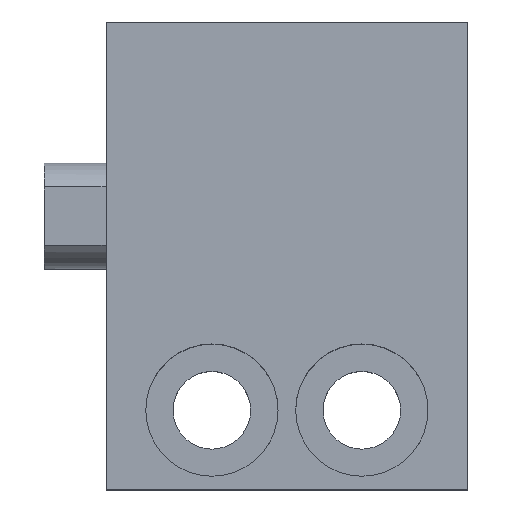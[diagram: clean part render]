
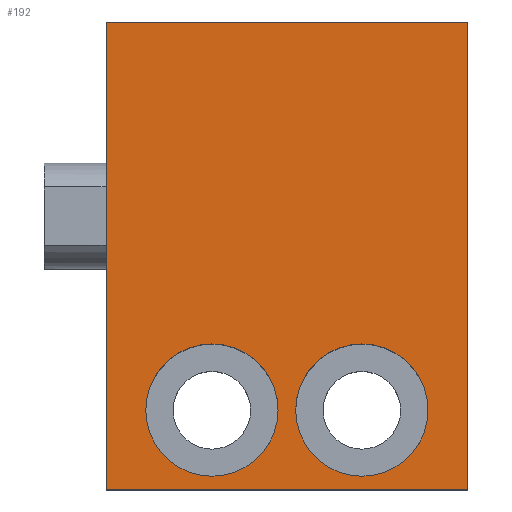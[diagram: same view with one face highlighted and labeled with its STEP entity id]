
A CAD part, top view. The second image highlights one B-rep face of the part: STEP entity #192.
In plain terms, the highlighted planar face has unit normal (0, 0, 1).
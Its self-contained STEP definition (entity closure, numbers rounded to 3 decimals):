
#11 = FACE_BOUND ( 'NONE', #609, .T. ) ;
#15 = VERTEX_POINT ( 'NONE', #2192 ) ;
#27 = DIRECTION ( 'NONE',  ( 0., 0., 1. ) ) ;
#32 = VECTOR ( 'NONE', #420, 1000. ) ;
#43 = EDGE_LOOP ( 'NONE', ( #1463, #1530 ) ) ;
#108 = ORIENTED_EDGE ( 'NONE', *, *, #1874, .F. ) ;
#185 = EDGE_CURVE ( 'NONE', #2368, #2117, #237, .T. ) ;
#188 = CARTESIAN_POINT ( 'NONE',  ( 20.5, 11., 8.5 ) ) ;
#192 = ADVANCED_FACE ( 'NONE', ( #2183, #11, #1927 ), #208, .T. ) ;
#208 = PLANE ( 'NONE',  #949 ) ;
#213 = EDGE_LOOP ( 'NONE', ( #108, #1221, #508, #3034 ) ) ;
#225 = DIRECTION ( 'NONE',  ( 1., 0., 0. ) ) ;
#237 = LINE ( 'NONE', #699, #1549 ) ;
#289 = ORIENTED_EDGE ( 'NONE', *, *, #799, .F. ) ;
#362 = CARTESIAN_POINT ( 'NONE',  ( 20.5, -15.5, 8.5 ) ) ;
#420 = DIRECTION ( 'NONE',  ( 0., 1., 0. ) ) ;
#423 = CARTESIAN_POINT ( 'NONE',  ( 10.75, -11., 8.5 ) ) ;
#468 = CARTESIAN_POINT ( 'NONE',  ( 6., -11., 8.5 ) ) ;
#473 = DIRECTION ( 'NONE',  ( 0., 0., 1. ) ) ;
#508 = ORIENTED_EDGE ( 'NONE', *, *, #185, .T. ) ;
#538 = CIRCLE ( 'NONE', #886, 3.75 ) ;
#543 = EDGE_CURVE ( 'NONE', #2117, #2497, #1661, .T. ) ;
#609 = EDGE_LOOP ( 'NONE', ( #289, #855 ) ) ;
#686 = DIRECTION ( 'NONE',  ( 0., 0., 1. ) ) ;
#699 = CARTESIAN_POINT ( 'NONE',  ( 20.5, -15.5, 8.5 ) ) ;
#799 = EDGE_CURVE ( 'NONE', #2959, #1371, #2664, .T. ) ;
#855 = ORIENTED_EDGE ( 'NONE', *, *, #2319, .F. ) ;
#886 = AXIS2_PLACEMENT_3D ( 'NONE', #1925, #473, #2898 ) ;
#944 = CIRCLE ( 'NONE', #2810, 3.75 ) ;
#949 = AXIS2_PLACEMENT_3D ( 'NONE', #2851, #992, #1947 ) ;
#992 = DIRECTION ( 'NONE',  ( 0., 0., 1. ) ) ;
#1058 = AXIS2_PLACEMENT_3D ( 'NONE', #2184, #27, #2969 ) ;
#1210 = DIRECTION ( 'NONE',  ( 0., 1., 0. ) ) ;
#1221 = ORIENTED_EDGE ( 'NONE', *, *, #1995, .F. ) ;
#1254 = VECTOR ( 'NONE', #2157, 1000. ) ;
#1330 = CARTESIAN_POINT ( 'NONE',  ( 20.5, -15.5, 8.5 ) ) ;
#1371 = VERTEX_POINT ( 'NONE', #423 ) ;
#1403 = CARTESIAN_POINT ( 'NONE',  ( 18.25, -11., 8.5 ) ) ;
#1463 = ORIENTED_EDGE ( 'NONE', *, *, #2546, .F. ) ;
#1485 = VECTOR ( 'NONE', #1809, 1000. ) ;
#1530 = ORIENTED_EDGE ( 'NONE', *, *, #3112, .F. ) ;
#1549 = VECTOR ( 'NONE', #1210, 1000. ) ;
#1631 = VERTEX_POINT ( 'NONE', #2005 ) ;
#1661 = LINE ( 'NONE', #2389, #1254 ) ;
#1809 = DIRECTION ( 'NONE',  ( -1., 0., 0. ) ) ;
#1874 = EDGE_CURVE ( 'NONE', #2380, #2497, #2870, .T. ) ;
#1921 = DIRECTION ( 'NONE',  ( 0., 0., 1. ) ) ;
#1925 = CARTESIAN_POINT ( 'NONE',  ( 14.5, -11., 8.5 ) ) ;
#1927 = FACE_BOUND ( 'NONE', #43, .T. ) ;
#1947 = DIRECTION ( 'NONE',  ( 0., 1., 0. ) ) ;
#1995 = EDGE_CURVE ( 'NONE', #2368, #2380, #2252, .T. ) ;
#2005 = CARTESIAN_POINT ( 'NONE',  ( 2.25, -11., 8.5 ) ) ;
#2117 = VERTEX_POINT ( 'NONE', #188 ) ;
#2157 = DIRECTION ( 'NONE',  ( -1., 0., 0. ) ) ;
#2183 = FACE_OUTER_BOUND ( 'NONE', #213, .T. ) ;
#2184 = CARTESIAN_POINT ( 'NONE',  ( 14.5, -11., 8.5 ) ) ;
#2192 = CARTESIAN_POINT ( 'NONE',  ( 9.75, -11., 8.5 ) ) ;
#2252 = LINE ( 'NONE', #362, #1485 ) ;
#2319 = EDGE_CURVE ( 'NONE', #1371, #2959, #538, .T. ) ;
#2368 = VERTEX_POINT ( 'NONE', #1330 ) ;
#2380 = VERTEX_POINT ( 'NONE', #2964 ) ;
#2389 = CARTESIAN_POINT ( 'NONE',  ( 20.5, 11., 8.5 ) ) ;
#2497 = VERTEX_POINT ( 'NONE', #2891 ) ;
#2546 = EDGE_CURVE ( 'NONE', #15, #1631, #3040, .T. ) ;
#2566 = DIRECTION ( 'NONE',  ( 1., 0., 0. ) ) ;
#2587 = CARTESIAN_POINT ( 'NONE',  ( 6., -11., 8.5 ) ) ;
#2664 = CIRCLE ( 'NONE', #1058, 3.75 ) ;
#2810 = AXIS2_PLACEMENT_3D ( 'NONE', #2587, #686, #225 ) ;
#2851 = CARTESIAN_POINT ( 'NONE',  ( 20.5, -15.5, 8.5 ) ) ;
#2852 = CARTESIAN_POINT ( 'NONE',  ( 0., -15.5, 8.5 ) ) ;
#2870 = LINE ( 'NONE', #2852, #32 ) ;
#2891 = CARTESIAN_POINT ( 'NONE',  ( 0., 11., 8.5 ) ) ;
#2893 = AXIS2_PLACEMENT_3D ( 'NONE', #468, #1921, #2566 ) ;
#2898 = DIRECTION ( 'NONE',  ( 1., 0., 0. ) ) ;
#2959 = VERTEX_POINT ( 'NONE', #1403 ) ;
#2964 = CARTESIAN_POINT ( 'NONE',  ( 0., -15.5, 8.5 ) ) ;
#2969 = DIRECTION ( 'NONE',  ( 1., 0., 0. ) ) ;
#3034 = ORIENTED_EDGE ( 'NONE', *, *, #543, .T. ) ;
#3040 = CIRCLE ( 'NONE', #2893, 3.75 ) ;
#3112 = EDGE_CURVE ( 'NONE', #1631, #15, #944, .T. ) ;
